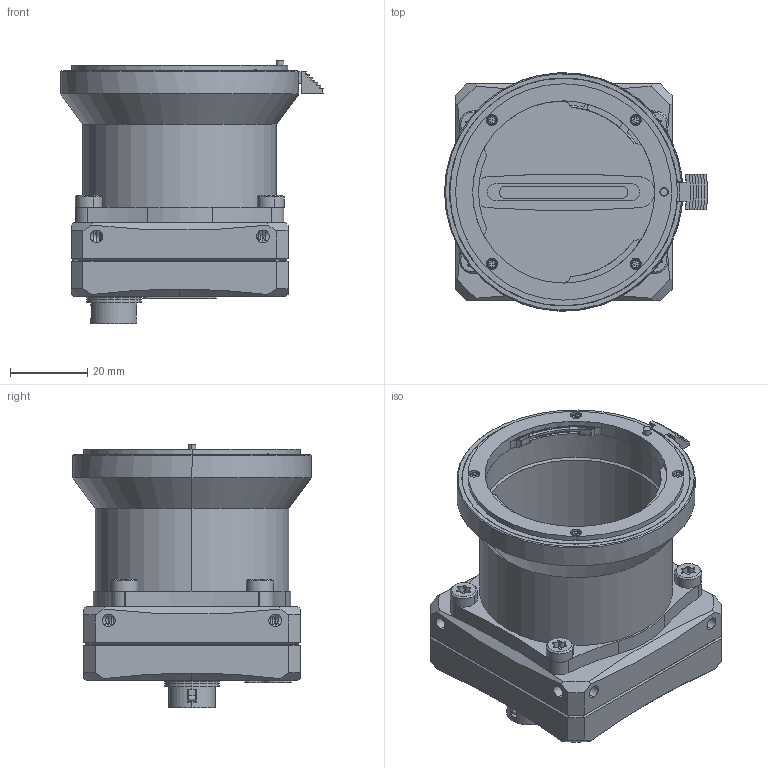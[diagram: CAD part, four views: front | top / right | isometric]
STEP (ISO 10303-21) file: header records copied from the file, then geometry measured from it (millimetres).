
FILE_DESCRIPTION (( 'STEP AP214' ), '1' );
FILE_NAME ('NectaX_F-mount.STEP', '2026-06-18T08:56:39', ( '' ), ( '' ), 'SwSTEP 2.0', 'SolidWorks 2025', '' );
FILE_SCHEMA (( 'AUTOMOTIVE_DESIGN' ));
Length unit declared in the file: millimetre
Products named in the file (15): Ring_elastico; F_mount_assembly; Vite_M2x5_croce_testa_ridotta_M2x5mm; Pulsante; Usb_c; Vite_M2_M2x05; pin_KF; F-mount_1; NectaX_F-mount; Ring_esterno; FrontMec_Rev 04.00; Light_pipe; I-O; Vite_M4_M4 x 08; Rear_mec_Usb-C_1
Assembly tree (23 placements, depth 3):
  NectaX_F-mount
    FrontMec_Rev 04.00
    Light_pipe
    Vite_M2_M2x05  x4
    I-O
    Vite_M4_M4 x 08  x4
    Rear_mec_Usb-C_1
    Usb_c
    F_mount_assembly
      F-mount_1
      pin_KF
      Pulsante
      Ring_elastico
      Ring_esterno
      Vite_M2x5_croce_testa_ridotta_M2x5mm  x4
Bounding box: 67.95 x 61.6 x 68.15 mm (x, y, z)
Volume: 77463 mm3; surface area: 42335.4 mm2
Topology: 23 solids, 23 shells, 2304 faces, 6035 edges, 3846 vertices
Faces by surface type: plane 1101, cylinder 684, cone 380, bspline 79, torus 60
Entity records: 84871 total; most frequent: CARTESIAN_POINT 17846, ORIENTED_EDGE 10808, DIRECTION 9916, EDGE_CURVE 5404, VERTEX_POINT 3468, AXIS2_PLACEMENT_3D 3408, VECTOR 3100, LINE 3100
